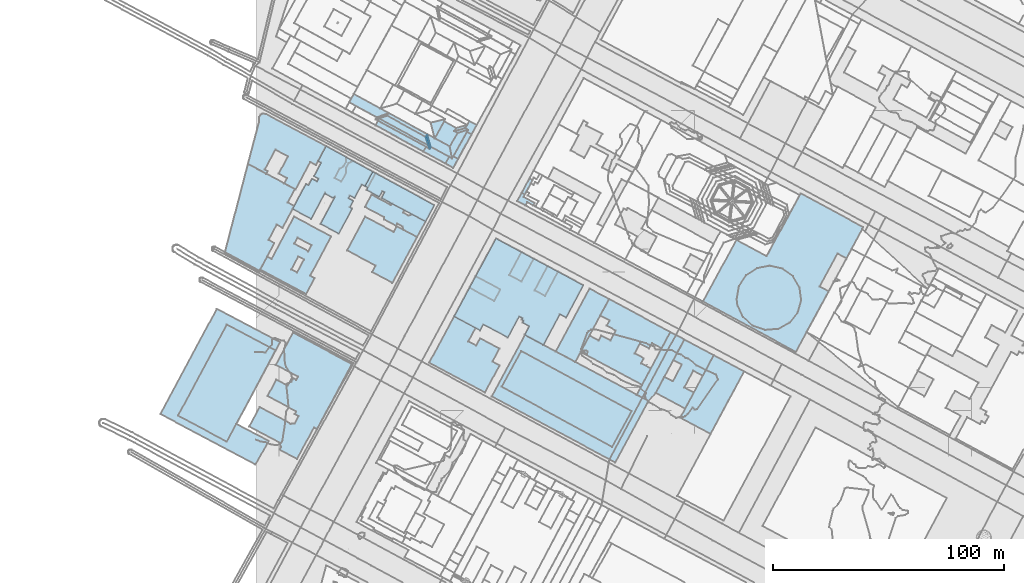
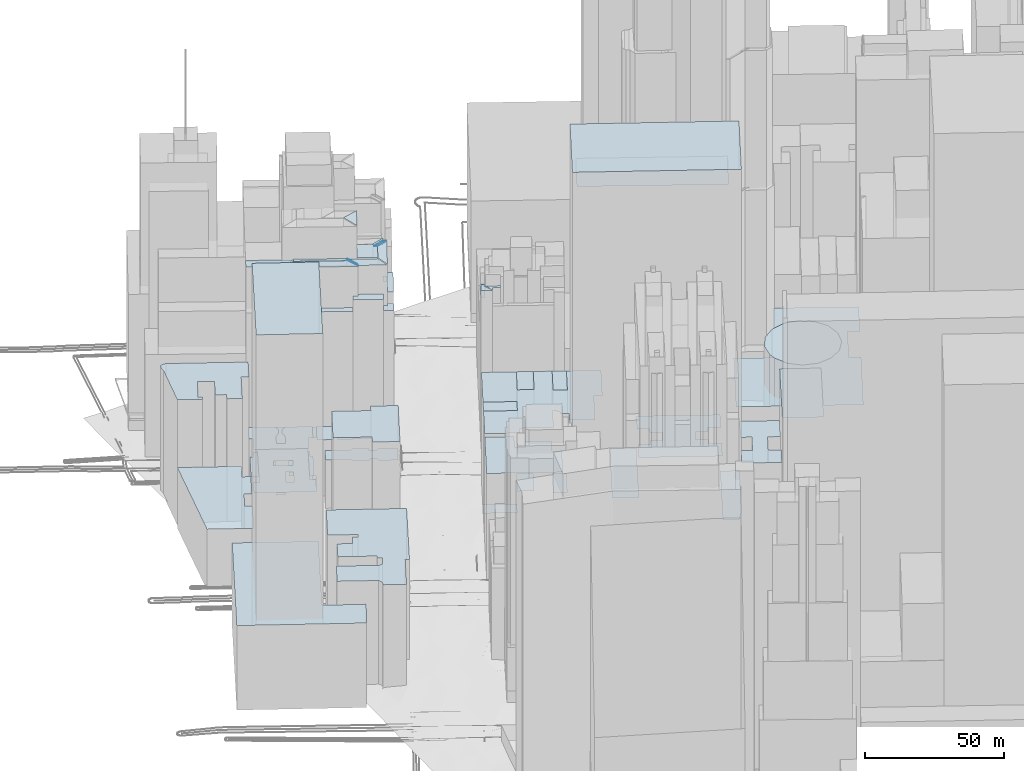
# Not in any storey, part 36 of 76: 45 roofs.
"""IFC2X3 model written with IfcOpenShell, lengths in metres."""

from ifc_helpers import new_model, si_unit, frame, origin_with_axes, place, context, subcontext, project, faceted_brep, element, save


model = new_model("IFC2X3")

# Units and contexts
model_context = context("Model", 3, precision=1e-05, world=origin_with_axes())
body_context = subcontext(model_context, "Body", "Model", "MODEL_VIEW")
ifc_project = project(units=[si_unit("AREAUNIT", "SQUARE_METRE"), si_unit("LENGTHUNIT", "METRE")], contexts=[model_context])

# Roofs
roof_1_placement = place(None, frame((183.8820757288, 196.3915098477, 20.8609767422), z_axis=(0.0, 0.0, 1.0), x_axis=(1.0, 0.0, 0.0)))
element("IfcRoof", 1, at=roof_1_placement, Name="Toiture 0", ShapeType="NOTDEFINED", context=body_context, shape_type="Brep", body=[
    faceted_brep([(14.5169569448, 27.0695500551, 49.0), (0.0, 0.0, 49.0), (13.0985430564, -7.030868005, 49.0), (27.6239079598, 20.0388061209, 49.0)], [[[0, 1, 2]], [[2, 3, 0]]]),
])
roof_2_placement = place(None, frame((102.2298570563, 205.6345629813, 20.5938253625), z_axis=(0.0, 0.0, 1.0), x_axis=(1.0, 0.0, 0.0)))
element("IfcRoof", 2, at=roof_2_placement, Name="Toiture 0", ShapeType="NOTDEFINED", context=body_context, shape_type="Brep", body=[
    faceted_brep([(14.353712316, 26.6122941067, 179.8000030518), (0.0, 0.0, 179.8000030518), (53.4972467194, -28.6328905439, 179.8000030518), (67.8508291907, -2.0204918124, 179.8000030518)], [[[0, 1, 2]], [[2, 3, 0]]]),
])
roof_3_placement = place(None, frame((106.4781571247, 209.8028425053, 21.3379729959), z_axis=(0.0, 0.0, 1.0), x_axis=(1.0, 0.0, 0.0)))
element("IfcRoof", 3, at=roof_3_placement, Name="Toiture 0", ShapeType="NOTDEFINED", context=body_context, shape_type="Brep", body=[
    faceted_brep([(8.5063843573, 15.4865312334, 168.8000030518), (0.0, 0.0, 168.8000030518), (47.8622501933, -26.0671157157, 168.8000030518), (56.3684390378, -10.5694282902, 168.8000030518)], [[[0, 1, 2]], [[2, 3, 0]]]),
])
roof_4_placement = place(None, frame((164.9927892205, 206.3193932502, 19.6062191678), z_axis=(0.0, 0.0, 1.0), x_axis=(1.0, 0.0, 0.0)))
element("IfcRoof", 4, at=roof_4_placement, Name="Toiture 0", ShapeType="NOTDEFINED", context=body_context, shape_type="Brep", body=[
    faceted_brep([(14.5577861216, 27.1921115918, 6.0), (0.0, 0.0, 6.0), (5.0878970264, -2.7053220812, 6.0), (8.2630231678, 0.8287960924, 6.0), (20.6479519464, 23.9544415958, 6.0)], [[[0, 1, 2]], [[2, 3, 4]], [[4, 0, 2]]]),
])
roof_5_placement = place(None, frame((173.2558123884, 207.1481893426, 18.8067512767), z_axis=(0.0, 0.0, 1.0), x_axis=(1.0, 0.0, 0.0)))
element("IfcRoof", 5, at=roof_5_placement, Name="Toiture 0", ShapeType="NOTDEFINED", context=body_context, shape_type="Brep", body=[
    faceted_brep([(3.742823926, 6.9824180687, 28.3999996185), (0.0, 0.0, 28.3999996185), (12.733126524, -6.8241916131, 28.3999996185), (16.475942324, 0.1582329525, 28.3999996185), (12.3816260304, 2.3532869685, 28.3999996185), (16.2731366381, 9.6149967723, 28.3999996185), (20.3758905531, 7.4200430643, 28.3999996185), (25.1432202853, 16.3128705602, 28.3999996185), (12.3849287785, 23.1256455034, 28.3999996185), (7.6512209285, 14.2443195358, 28.3999996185), (7.3952691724, 5.0375743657, 28.3999996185), (11.2869121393, 12.2881807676, 28.3999996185)], [[[0, 1, 2]], [[2, 3, 4]], [[5, 6, 7]], [[7, 8, 9]], [[10, 0, 2]], [[5, 7, 9]], [[11, 10, 2]], [[5, 9, 11]], [[11, 2, 4]], [[4, 5, 11]]]),
])
roof_6_placement = place(None, frame((140.736043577, 224.855812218, 18.8878227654), z_axis=(0.0, 0.0, 1.0), x_axis=(1.0, 0.0, 0.0)))
element("IfcRoof", 6, at=roof_6_placement, Name="Toiture 0", ShapeType="NOTDEFINED", context=body_context, shape_type="Brep", body=[
    faceted_brep([(3.8172594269, 7.11649328, 31.3999996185), (0.0, 0.0, 31.3999996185), (26.5536145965, -14.2464559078, 31.3999996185), (30.3624164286, -7.1300469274, 31.3999996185), (26.1831921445, -4.8915607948, 31.3999996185), (27.3481177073, -2.7130804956, 31.3999996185), (23.3727549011, -0.5832457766, 31.3999996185), (25.6615651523, 3.6733168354, 31.3999996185), (29.6369264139, 1.5434833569, 31.3999996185), (30.8679530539, 3.8448574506, 31.3999996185), (35.0471740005, 1.6063739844, 31.3999996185), (38.8145317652, 8.6556926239, 31.3999996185), (12.3027872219, 22.9358968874, 31.3999996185), (8.4690509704, 15.7859003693, 31.3999996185), (12.4614103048, 13.6451532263, 31.3999996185), (11.254926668, 11.4106810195, 31.3999996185), (15.2048295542, 9.2916463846, 31.3999996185), (12.9161442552, 5.023986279, 31.3999996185), (8.9662398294, 7.1430221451, 31.3999996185), (7.801181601, 4.9756455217, 31.3999996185)], [[[0, 1, 2]], [[2, 3, 4]], [[4, 5, 6]], [[7, 8, 9]], [[9, 10, 11]], [[11, 12, 13]], [[14, 15, 16]], [[17, 18, 19]], [[19, 0, 2]], [[2, 4, 6]], [[7, 9, 11]], [[11, 13, 14]], [[17, 19, 2]], [[7, 11, 14]], [[16, 17, 2]], [[6, 7, 14]], [[16, 2, 6]], [[6, 14, 16]]]),
])
roof_7_placement = place(None, frame((129.9536213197, 225.0858006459, 21.0283081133), z_axis=(0.0, 0.0, 1.0), x_axis=(1.0, 0.0, 0.0)))
element("IfcRoof", 7, at=roof_7_placement, Name="Toiture 0", ShapeType="NOTDEFINED", context=body_context, shape_type="Brep", body=[
    faceted_brep([(14.6163103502, 27.2482324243, 15.1999998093), (0.0, 0.0, 15.1999998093), (8.4687912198, -4.5312400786, 15.1999998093), (23.0852094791, 22.7059084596, 15.1999998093)], [[[0, 1, 2]], [[2, 3, 0]]]),
])
roof_8_placement = place(None, frame((85.8984085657, 240.2837612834, 20.6241127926), z_axis=(0.0, 0.0, 1.0), x_axis=(1.0, 0.0, 0.0)))
element("IfcRoof", 8, at=roof_8_placement, Name="Toiture 0", ShapeType="NOTDEFINED", context=body_context, shape_type="Brep", body=[
    faceted_brep([(18.1278687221, 33.8059517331, 50.0), (0.0, 0.0, 50.0), (11.2465195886, -6.0311397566, 50.0), (12.6512037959, -3.4168984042, 50.0), (23.2861681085, -9.1220554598, 50.0), (28.2024169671, 0.0388994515, 50.0), (29.7229034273, -0.776106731, 50.0), (29.3592670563, -1.4464661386, 50.0), (30.1152258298, -1.848467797, 50.0), (29.6773030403, -2.6640194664, 50.0), (32.5654494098, -4.2180905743, 50.0), (30.5658357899, -7.9383700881, 50.0), (38.6867515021, -12.3182352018, 50.0), (45.8336301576, 1.0208901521, 50.0), (48.5348020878, -0.4243246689, 50.0), (55.9958034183, 13.4846763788, 50.0)], [[[0, 1, 2]], [[3, 4, 5]], [[6, 7, 8]], [[8, 9, 10]], [[10, 11, 12]], [[13, 14, 15]], [[0, 2, 3]], [[6, 8, 10]], [[10, 12, 13]], [[13, 15, 0]], [[0, 3, 5]], [[6, 10, 13]], [[13, 0, 5]], [[5, 6, 13]]]),
])
roof_9_placement = place(None, frame((85.8984085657, 240.2837612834, 20.6241127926), z_axis=(0.0, 0.0, 1.0), x_axis=(1.0, 0.0, 0.0)))
element("IfcRoof", 9, at=roof_9_placement, Name="Toiture 0", ShapeType="NOTDEFINED", context=body_context, shape_type="Brep", body=[
    faceted_brep([(6.6595287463, 12.4230421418, 50.0), (0.0, 0.0, 50.0), (11.2465195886, -6.0311397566, 50.0), (12.6512037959, -3.4168984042, 50.0), (23.2861681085, -9.1220554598, 50.0), (28.2024169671, 0.0388994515, 50.0), (29.7229034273, -0.776106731, 50.0), (29.3592670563, -1.4464661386, 50.0), (30.1152258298, -1.848467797, 50.0), (29.6773030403, -2.6640194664, 50.0), (32.5654494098, -4.2180905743, 50.0), (30.5658357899, -7.9383700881, 50.0), (38.6867515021, -12.3182352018, 50.0), (45.8336301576, 1.0208901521, 50.0), (48.5348020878, -0.4243246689, 50.0), (55.9958034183, 13.4846763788, 50.0), (45.0379209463, 19.3747728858, 50.0), (39.3945655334, 8.8619853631, 50.0), (34.8585594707, 11.2961922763, 50.0), (40.5020482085, 21.7978755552, 50.0), (34.5220457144, 25.003566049, 50.0), (23.8498507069, 17.92958022, 50.0), (29.1875069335, 27.8725894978, 50.0), (18.1278687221, 33.8059517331, 50.0), (9.3283721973, 17.3945398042, 50.0), (20.0566635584, 11.6460536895, 50.0), (17.387953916, 6.6634513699, 50.0), (29.1928346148, 15.0606509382, 50.0)], [[[0, 1, 2]], [[3, 4, 5]], [[6, 7, 8]], [[8, 9, 10]], [[10, 11, 12]], [[13, 14, 15]], [[15, 16, 17]], [[18, 19, 20]], [[21, 22, 23]], [[23, 24, 25]], [[26, 0, 2]], [[6, 8, 10]], [[10, 12, 13]], [[13, 15, 17]], [[18, 20, 27]], [[21, 23, 25]], [[25, 26, 2]], [[6, 10, 13]], [[13, 17, 18]], [[18, 27, 21]], [[21, 25, 2]], [[5, 6, 13]], [[13, 18, 21]], [[21, 2, 3]], [[5, 13, 21]], [[21, 3, 5]]]),
])
roof_10_placement = place(None, frame((109.7482592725, 258.2133415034, 22.1609130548), z_axis=(0.0, 0.0, 1.0), x_axis=(1.0, 0.0, 0.0)))
element("IfcRoof", 10, at=roof_10_placement, Name="Toiture 0", ShapeType="NOTDEFINED", context=body_context, shape_type="Brep", body=[
    faceted_brep([(5.3376562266, 9.9430092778, 4.0), (0.0, 0.0, 4.0), (5.3429839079, -2.8689292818, 4.0), (10.6721950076, 7.073985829, 4.0)], [[[0, 1, 2]], [[2, 3, 0]]]),
])
roof_11_placement = place(None, frame((120.7569680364, 251.5799535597, 21.6785385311), z_axis=(0.0, 0.0, 1.0), x_axis=(1.0, 0.0, 0.0)))
element("IfcRoof", 11, at=roof_11_placement, Name="Toiture 0", ShapeType="NOTDEFINED", context=body_context, shape_type="Brep", body=[
    faceted_brep([(5.6434887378, 10.5016832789, 4.0), (0.0, 0.0, 4.0), (4.5360060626, -2.4342069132, 4.0), (10.1793614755, 8.0785806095, 4.0)], [[[0, 1, 2]], [[2, 3, 0]]]),
])
roof_12_placement = place(None, frame((113.2505831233, 290.2618220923, 23.4496714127), z_axis=(0.0, 0.0, 1.0), x_axis=(1.0, 0.0, 0.0)))
element("IfcRoof", 12, at=roof_12_placement, Name="Toiture 0", ShapeType="NOTDEFINED", context=body_context, shape_type="Brep", body=[
    faceted_brep([(1.9180329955, 3.4750820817, 70.0), (0.0, 0.0, 70.0), (3.5507210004, -1.912748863, 70.0), (4.3278559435, -0.5048368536, 70.0), (6.9103282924, -1.9070263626, 70.0), (7.4887654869, -0.8344899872, 70.0), (2.7316622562, 1.7414799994, 70.0), (3.2685432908, 2.7580220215, 70.0)], [[[0, 1, 2]], [[3, 4, 5]], [[6, 7, 0]], [[3, 5, 6]], [[6, 0, 2]], [[2, 3, 6]]]),
])
roof_13_placement = place(None, frame((115.1686161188, 293.7369041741, 23.6149483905), z_axis=(0.0, 0.0, 1.0), x_axis=(1.0, 0.0, 0.0)))
element("IfcRoof", 13, at=roof_13_placement, Name="Toiture 0", ShapeType="NOTDEFINED", context=body_context, shape_type="Brep", body=[
    faceted_brep([(3.4125721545, 6.3457242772, 64.0), (0.0, 0.0, 64.0), (1.3505102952, -0.7170600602, 64.0), (4.7632106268, 5.6175640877, 64.0)], [[[0, 1, 2]], [[2, 3, 0]]]),
])
roof_14_placement = place(None, frame((208.3375568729, 247.8905716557, 20.825107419), z_axis=(0.0, 0.0, 1.0), x_axis=(1.0, 0.0, 0.0)))
element("IfcRoof", 14, at=roof_14_placement, Name="Toiture 0", ShapeType="NOTDEFINED", context=body_context, shape_type="Brep", body=[
    faceted_brep([(0.973996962, 5.5291486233, 37.0), (0.0, 0.0, 37.0), (0.3701435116, -2.7934642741, 37.0), (2.7424292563, -7.8951187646, 37.0), (6.9390853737, -11.6321820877, 37.0), (12.2781734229, -13.435265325, 37.0), (17.8949044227, -12.9813571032, 37.0), (22.8786233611, -10.3587654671, 37.0), (26.4239639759, -5.9987460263, 37.0), (27.9565517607, -0.5963225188, 37.0), (27.2249428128, 4.9685003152, 37.0), (24.3493255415, 9.7978381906, 37.0), (19.7863353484, 13.0976424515, 37.0), (14.2932254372, 14.3549177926, 37.0), (8.7506217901, 13.3356587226, 37.0), (4.0595645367, 10.2279804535, 37.0)], [[[0, 1, 2]], [[2, 3, 4]], [[4, 5, 6]], [[6, 7, 8]], [[8, 9, 10]], [[10, 11, 12]], [[12, 13, 14]], [[14, 15, 0]], [[0, 2, 4]], [[4, 6, 8]], [[8, 10, 12]], [[12, 14, 0]], [[0, 4, 8]], [[8, 12, 0]]]),
])
roof_15_placement = place(None, frame((193.7309608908, 246.6882133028, 19.7595905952), z_axis=(0.0, 0.0, 1.0), x_axis=(1.0, 0.0, 0.0)))
element("IfcRoof", 15, at=roof_15_placement, Name="Toiture 0", ShapeType="NOTDEFINED", context=body_context, shape_type="Brep", body=[
    faceted_brep([(14.4699178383, 26.7470627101, 21.0), (0.0, 0.0, 21.0), (40.2234747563, -21.7700261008, 21.0), (54.4125243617, 4.4409408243, 21.0), (50.5303832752, 6.5385106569, 21.0), (58.2323186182, 20.7612951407, 21.0), (62.1144547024, 18.6637293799, 21.0), (69.4444224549, 32.2049607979, 21.0), (42.2947416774, 46.899331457, 21.0), (27.5521167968, 19.6605385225, 21.0)], [[[0, 1, 2]], [[2, 3, 4]], [[5, 6, 7]], [[7, 8, 9]], [[9, 0, 2]], [[5, 7, 9]], [[9, 2, 4]], [[4, 5, 9]]]),
])
roof_16_placement = place(None, frame((75.8576447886, 324.2223197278, 23.8818952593), z_axis=(0.0, 0.0, 1.0), x_axis=(1.0, 0.0, 0.0)))
element("IfcRoof", 16, at=roof_16_placement, Name="Toiture 0", ShapeType="NOTDEFINED", context=body_context, shape_type="Brep", body=[
    faceted_brep([(6.2713279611, 1.5050133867, 94.0), (0.0, 0.0, 94.0), (1.6742153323, -6.7862405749, 94.0)], [[[0, 1, 2]]]),
])
roof_17_placement = place(None, frame((51.8301050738, 323.0662829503, 23.5650277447), z_axis=(0.0, 0.0, 1.0), x_axis=(1.0, 0.0, 0.0)))
element("IfcRoof", 17, at=roof_17_placement, Name="Toiture 0", ShapeType="NOTDEFINED", context=body_context, shape_type="Brep", body=[
    faceted_brep([(1.0828589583, 1.9776688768, 62.0), (0.0, 0.0, 62.0), (20.7629560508, -11.3941082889, 62.0), (21.9038617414, -9.3269442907, 62.0)], [[[0, 1, 2]], [[2, 3, 0]]]),
])
roof_18_placement = place(None, frame((-13.4692579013, 267.507853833, 20.5235292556), z_axis=(0.0, 0.0, 1.0), x_axis=(1.0, 0.0, 0.0)))
element("IfcRoof", 18, at=roof_18_placement, Name="Toiture 0", ShapeType="NOTDEFINED", context=body_context, shape_type="Brep", body=[
    faceted_brep([(10.0850586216, 38.7750178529, 26.5), (0.0, 0.0, 26.5), (14.8729310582, -7.9321108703, 26.5), (21.5236253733, 4.535158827, 26.5), (19.0179048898, 5.871663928, 26.5), (22.5456521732, 12.4851249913, 26.5), (25.0429308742, 11.1485231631, 26.5), (30.1073251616, 20.644198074, 26.5), (27.3212769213, 22.1328790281, 26.5), (30.4109499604, 27.9418994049, 26.5)], [[[0, 1, 2]], [[2, 3, 4]], [[5, 6, 7]], [[8, 9, 0]], [[0, 2, 4]], [[5, 7, 8]], [[8, 0, 4]], [[4, 5, 8]]]),
])
roof_19_placement = place(None, frame((-3.3841992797, 306.2828716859, 21.8195391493), z_axis=(0.0, 0.0, 1.0), x_axis=(1.0, 0.0, 0.0)))
element("IfcRoof", 19, at=roof_19_placement, Name="Toiture 0", ShapeType="NOTDEFINED", context=body_context, shape_type="Brep", body=[
    faceted_brep([(0.0, 0.0, 54.9000015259), (7.9587232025, -4.2375453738, 54.9000015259), (8.5865292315, -3.0534231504, 54.9000015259), (17.3086069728, 3.3094443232, 54.9000015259), (13.3099607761, -4.1865612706, 54.9000015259), (16.8944091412, -6.0989674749, 54.9000015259), (15.6882811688, -8.366718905, 54.9000015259), (20.6318009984, -11.0072048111, 54.9000015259), (26.9684045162, 0.8791195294, 54.9000015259), (29.4571079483, -0.4464745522, 54.9000015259), (33.8274296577, 7.7532955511, 54.9000015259), (7.7846017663, 21.6841879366, 54.9000015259), (6.347319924, 21.8784555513, 54.9000015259), (5.3911895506, 21.3455570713, 54.9000015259), (4.8705322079, 20.3847231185, 54.9000015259), (7.3125093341, -2.3798647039, 54.9000015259), (4.8038334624, 18.1301925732, 54.9000015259), (11.8893541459, 6.2108665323, 54.9000015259)], [[[0, 1, 2]], [[3, 4, 5]], [[5, 6, 7]], [[8, 9, 10]], [[10, 11, 12]], [[12, 13, 14]], [[0, 2, 15]], [[3, 5, 7]], [[8, 10, 12]], [[12, 14, 16]], [[16, 0, 15]], [[3, 7, 8]], [[8, 12, 16]], [[16, 15, 17]], [[17, 3, 8]], [[8, 16, 17]]]),
])
roof_20_placement = place(None, frame((47.3240526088, 296.7460494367, 22.6341458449), z_axis=(0.0, 0.0, 1.0), x_axis=(1.0, 0.0, 0.0)))
element("IfcRoof", 20, at=roof_20_placement, Name="Toiture 0", ShapeType="NOTDEFINED", context=body_context, shape_type="Brep", body=[
    faceted_brep([(3.3375678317, 6.267105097, 4.0), (0.0, 0.0, 4.0), (1.2145569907, -0.6409345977, 4.0), (4.5862716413, 5.5932606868, 4.0)], [[[0, 1, 2]], [[2, 3, 0]]]),
])
roof_21_placement = place(None, frame((15.9441565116, 286.8450369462, 20.647913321), z_axis=(0.0, 0.0, 1.0), x_axis=(1.0, 0.0, 0.0)))
element("IfcRoof", 21, at=roof_21_placement, Name="Toiture 0", ShapeType="NOTDEFINED", context=body_context, shape_type="Brep", body=[
    faceted_brep([(5.7830971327, 10.847390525, 27.3999996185), (0.0, 0.0, 27.3999996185), (8.0352328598, -4.2810464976, 27.3999996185), (14.0662474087, 7.0244198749, 27.3999996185), (14.5213100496, 6.363565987, 27.3999996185), (17.3582596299, 4.8532774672, 27.3999996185), (18.4068488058, 5.4205597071, 27.3999996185), (12.0868715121, -6.4433762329, 27.3999996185), (20.0203200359, -10.6811822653, 27.3999996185), (25.8033972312, 0.1662240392, 27.3999996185), (24.7841247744, 0.7095061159, 27.3999996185), (26.2793412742, 3.5246280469, 27.3999996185), (24.1813290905, 4.6438087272, 27.3999996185), (24.8257532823, 5.8503314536, 27.3999996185), (26.8302782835, 4.7855771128, 27.3999996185), (29.9614850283, 10.6506035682, 27.3999996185), (31.3798960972, 9.9010124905, 27.3999996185), (34.717463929, 16.1681175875, 27.3999996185), (14.4990738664, 27.1911302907, 27.3999996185), (11.0539615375, 20.7340482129, 27.3999996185), (12.3874511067, 20.0278770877, 27.3999996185), (9.2563637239, 14.1517573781, 27.3999996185), (11.2354346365, 13.0978057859, 27.3999996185), (10.5910089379, 11.8912842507, 27.3999996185), (8.3996436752, 13.0537949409, 27.3999996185), (6.9042937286, 10.2497774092, 27.3999996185)], [[[0, 1, 2]], [[3, 4, 5]], [[6, 7, 8]], [[8, 9, 10]], [[10, 11, 12]], [[13, 14, 15]], [[15, 16, 17]], [[17, 18, 19]], [[20, 21, 22]], [[23, 24, 25]], [[25, 0, 2]], [[3, 5, 6]], [[6, 8, 10]], [[13, 15, 17]], [[17, 19, 20]], [[23, 25, 2]], [[6, 10, 12]], [[13, 17, 20]], [[22, 23, 2]], [[3, 6, 12]], [[12, 13, 20]], [[22, 2, 3]], [[3, 12, 20]], [[20, 22, 3]]]),
])
roof_22_placement = place(None, frame((15.9441565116, 286.8450369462, 20.647913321), z_axis=(0.0, 0.0, 1.0), x_axis=(1.0, 0.0, 0.0)))
element("IfcRoof", 22, at=roof_22_placement, Name="Toiture 0", ShapeType="NOTDEFINED", context=body_context, shape_type="Brep", body=[
    faceted_brep([(5.7830971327, 10.847390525, 27.3999996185), (0.0, 0.0, 27.3999996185), (8.0352328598, -4.2810464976, 27.3999996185), (14.0662474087, 7.0244198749, 27.3999996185), (14.5213100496, 6.363565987, 27.3999996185), (17.3582596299, 4.8532774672, 27.3999996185), (18.4068488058, 5.4205597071, 27.3999996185), (12.0868715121, -6.4433762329, 27.3999996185), (20.0203200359, -10.6811822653, 27.3999996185), (25.8033972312, 0.1662240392, 27.3999996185), (24.7841247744, 0.7095061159, 27.3999996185), (26.2793412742, 3.5246280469, 27.3999996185), (24.1813290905, 4.6438087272, 27.3999996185), (24.8257532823, 5.8503314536, 27.3999996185), (26.8302782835, 4.7855771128, 27.3999996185), (29.9614850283, 10.6506035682, 27.3999996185), (31.3798960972, 9.9010124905, 27.3999996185), (34.717463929, 16.1681175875, 27.3999996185), (26.2477906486, 20.7882623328, 27.3999996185), (24.2412699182, 19.8434861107, 27.3999996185), (23.2746353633, 18.0337020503, 27.3999996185), (23.2917057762, 15.8356544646, 27.3999996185), (20.3782815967, 17.3894620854, 27.3999996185), (22.2214757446, 18.5876933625, 27.3999996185), (23.1881104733, 20.3974772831, 27.3999996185), (23.1045489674, 22.5059351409, 27.3999996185), (14.4990738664, 27.1911302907, 27.3999996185), (11.0539615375, 20.7340482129, 27.3999996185), (12.3874511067, 20.0278770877, 27.3999996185), (9.2563637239, 14.1517573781, 27.3999996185), (11.2354346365, 13.0978057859, 27.3999996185), (10.5910089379, 11.8912842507, 27.3999996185), (8.3996436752, 13.0537949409, 27.3999996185), (6.9042937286, 10.2497774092, 27.3999996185), (18.213707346, 13.3342229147, 27.3999996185), (21.13557285, 11.7805123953, 27.3999996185)], [[[0, 1, 2]], [[3, 4, 5]], [[6, 7, 8]], [[8, 9, 10]], [[10, 11, 12]], [[13, 14, 15]], [[15, 16, 17]], [[17, 18, 19]], [[19, 20, 21]], [[22, 23, 24]], [[24, 25, 26]], [[26, 27, 28]], [[28, 29, 30]], [[31, 32, 33]], [[33, 0, 2]], [[3, 5, 6]], [[6, 8, 10]], [[13, 15, 17]], [[17, 19, 21]], [[22, 24, 26]], [[26, 28, 30]], [[31, 33, 2]], [[6, 10, 12]], [[13, 17, 21]], [[34, 22, 26]], [[30, 31, 2]], [[3, 6, 12]], [[12, 13, 21]], [[34, 26, 30]], [[30, 2, 3]], [[12, 21, 35]], [[35, 34, 30]], [[30, 3, 12]], [[12, 35, 30]]]),
])
roof_23_placement = place(None, frame((34.1578638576, 300.1792598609, 21.4353953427), z_axis=(0.0, 0.0, 1.0), x_axis=(1.0, 0.0, 0.0)))
element("IfcRoof", 23, at=roof_23_placement, Name="Toiture 0", ShapeType="NOTDEFINED", context=body_context, shape_type="Brep", body=[
    faceted_brep([(2.1645742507, 4.0552391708, 4.0), (0.0, 0.0, 4.0), (2.921865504, -1.5537105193, 4.0), (5.0779984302, 2.5014315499, 4.0), (5.0609280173, 4.6994791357, 4.0), (6.0275625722, 6.509263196, 4.0), (8.0340833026, 7.4540394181, 4.0), (4.8908416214, 9.1717122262, 4.0), (4.0077683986, 5.2534704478, 4.0), (4.9744031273, 7.0632543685, 4.0)], [[[0, 1, 2]], [[2, 3, 4]], [[5, 6, 7]], [[8, 0, 2]], [[5, 7, 9]], [[9, 8, 2]], [[4, 5, 9]], [[9, 2, 4]]]),
])
roof_24_placement = place(None, frame((73.5998116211, 318.0232504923, 23.6934942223), z_axis=(0.0, 0.0, 1.0), x_axis=(1.0, 0.0, 0.0)))
element("IfcRoof", 24, at=roof_24_placement, Name="Toiture 0", ShapeType="NOTDEFINED", context=body_context, shape_type="Brep", body=[
    faceted_brep([(0.6783061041, 1.1958170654, 80.0), (0.0, 0.0, 80.0), (1.7651185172, -5.1642565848, 80.0), (2.2527799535, -4.2704138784, 80.0)], [[[0, 1, 2]], [[2, 3, 0]]]),
])
roof_25_placement = place(None, frame((72.5930611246, 311.6721746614, 23.6541015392), z_axis=(0.0, 0.0, 1.0), x_axis=(1.0, 0.0, 0.0)))
element("IfcRoof", 25, at=roof_25_placement, Name="Toiture 0", ShapeType="NOTDEFINED", context=body_context, shape_type="Brep", body=[
    faceted_brep([(1.1409056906, 2.0671639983, 67.0), (0.0, 0.0, 67.0), (9.5908889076, -5.2177144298, 67.0), (11.2191958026, -2.2345041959, 67.0), (3.2595304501, 2.0806619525, 67.0), (2.7718690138, 1.186819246, 67.0)], [[[0, 1, 2]], [[2, 3, 4]], [[5, 0, 2]], [[2, 4, 5]]]),
])
roof_26_placement = place(None, frame((82.1839500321, 306.4544602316, 23.6541015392), z_axis=(0.0, 0.0, 1.0), x_axis=(1.0, 0.0, 0.0)))
element("IfcRoof", 26, at=roof_26_placement, Name="Toiture 0", ShapeType="NOTDEFINED", context=body_context, shape_type="Brep", body=[
    faceted_brep([(1.628306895, 2.983210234, 62.0), (0.0, 0.0, 62.0), (3.3638596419, -1.8150130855, 62.0), (5.3873702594, 2.0276609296, 62.0), (3.390767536, 3.1369042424, 62.0), (2.8614214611, 2.1981677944, 62.0)], [[[0, 1, 2]], [[2, 3, 4]], [[5, 0, 2]], [[2, 4, 5]]]),
])
roof_27_placement = place(None, frame((84.0905066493, 313.8262916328, 23.7335275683), z_axis=(0.0, 0.0, 1.0), x_axis=(1.0, 0.0, 0.0)))
element("IfcRoof", 27, at=roof_27_placement, Name="Toiture 0", ShapeType="NOTDEFINED", context=body_context, shape_type="Brep", body=[
    faceted_brep([(3.3073776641, 5.9559091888, 80.0), (0.0, 0.0, 80.0), (0.9548648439, -5.1736636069, 80.0), (7.9345415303, 7.2975078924, 80.0)], [[[0, 1, 2]], [[2, 3, 0]]]),
])
roof_28_placement = place(None, frame((85.5747175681, 309.591364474, 23.7388524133), z_axis=(0.0, 0.0, 1.0), x_axis=(1.0, 0.0, 0.0)))
element("IfcRoof", 28, at=roof_28_placement, Name="Toiture 0", ShapeType="NOTDEFINED", context=body_context, shape_type="Brep", body=[
    faceted_brep([(5.9126749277, 10.5824993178, 67.0), (0.0, 0.0, 67.0), (1.9966027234, -1.1092433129, 67.0), (7.8583766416, 9.4948709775, 67.0)], [[[0, 1, 2]], [[2, 3, 0]]]),
])
roof_29_placement = place(None, frame((47.2941529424, 287.6862653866, 22.3142509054), z_axis=(0.0, 0.0, 1.0), x_axis=(1.0, 0.0, 0.0)))
element("IfcRoof", 29, at=roof_29_placement, Name="Toiture 0", ShapeType="NOTDEFINED", context=body_context, shape_type="Brep", body=[
    faceted_brep([(2.8591197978, 5.3067574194, 21.5), (0.0, 0.0, 21.5), (8.2307944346, -4.4008675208, 21.5), (8.2421345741, -5.3777339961, 21.5), (13.4574445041, -8.1593656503, 21.5), (16.3907258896, -8.5138902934, 21.5), (16.6767950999, -9.8872482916, 21.5), (22.5887243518, -13.0493648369, 21.5), (26.2412137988, -6.2789916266, 21.5), (20.3292881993, -3.1168780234, 21.5), (16.5150002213, -2.4950270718, 21.5), (17.1100684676, -1.400097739, 21.5), (11.8946328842, 1.3926320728, 21.5), (11.0899102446, 0.905893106, 21.5), (13.9699153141, -7.2208270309, 21.5), (18.9358097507, -3.7880894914, 21.5)], [[[0, 1, 2]], [[2, 3, 4]], [[5, 6, 7]], [[7, 8, 9]], [[10, 11, 12]], [[13, 0, 2]], [[2, 4, 14]], [[5, 7, 9]], [[10, 12, 13]], [[13, 2, 14]], [[14, 5, 9]], [[10, 13, 14]], [[14, 9, 15]], [[15, 10, 14]]]),
])
roof_30_placement = place(None, frame((47.9849679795, 295.0772811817, 22.6386360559), z_axis=(0.0, 0.0, 1.0), x_axis=(1.0, 0.0, 0.0)))
element("IfcRoof", 30, at=roof_30_placement, Name="Toiture 0", ShapeType="NOTDEFINED", context=body_context, shape_type="Brep", body=[
    faceted_brep([(3.9253562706, 7.2620289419, 25.2999992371), (0.0, 0.0, 25.2999992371), (5.4873189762, -2.9450128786, 25.2999992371), (7.8112848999, -0.9862431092, 25.2999992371), (6.4725730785, -3.4664836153, 25.2999992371), (25.5503987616, -13.6700074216, 25.2999992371), (29.3597658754, -6.5980497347, 25.2999992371), (6.8259021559, -0.4536717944, 25.2999992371)], [[[0, 1, 2]], [[3, 4, 5]], [[5, 6, 0]], [[0, 2, 7]], [[3, 5, 0]], [[0, 7, 3]]]),
])
roof_31_placement = place(None, frame((47.3240526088, 296.7460494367, 22.6341458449), z_axis=(0.0, 0.0, 1.0), x_axis=(1.0, 0.0, 0.0)))
element("IfcRoof", 31, at=roof_31_placement, Name="Toiture 0", ShapeType="NOTDEFINED", context=body_context, shape_type="Brep", body=[
    faceted_brep([(3.3375678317, 6.267105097, 25.2999992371), (0.0, 0.0, 25.2999992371), (1.2145569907, -0.6409345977, 25.2999992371), (0.6609153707, -1.668768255, 25.2999992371), (6.1482343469, -4.6137811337, 25.2999992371), (8.4722002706, -2.6550113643, 25.2999992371), (7.1334884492, -5.1352518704, 25.2999992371), (26.2113141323, -15.3387756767, 25.2999992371), (30.0206812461, -8.2668179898, 25.2999992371), (7.4868175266, -2.1224400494, 25.2999992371)], [[[0, 1, 2]], [[2, 3, 4]], [[5, 6, 7]], [[7, 8, 0]], [[0, 2, 4]], [[5, 7, 0]], [[0, 4, 9]], [[9, 5, 0]]]),
])
roof_32_placement = place(None, frame((39.5439098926, 268.8668109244, 21.829392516), z_axis=(0.0, 0.0, 1.0), x_axis=(1.0, 0.0, 0.0)))
element("IfcRoof", 32, at=roof_32_placement, Name="Toiture 0", ShapeType="NOTDEFINED", context=body_context, shape_type="Brep", body=[
    faceted_brep([(7.8585467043, 14.5796516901, 45.9000015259), (0.0, 0.0, 45.9000015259), (12.3759530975, -6.6176192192, 45.9000015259), (10.8802187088, -9.3883399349, 45.9000015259), (19.6376943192, -14.0717489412, 45.9000015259), (30.3389674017, 5.7700896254, 45.9000015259), (21.5815076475, 10.4534858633, 45.9000015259), (20.2344833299, 7.9620457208, 45.9000015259)], [[[0, 1, 2]], [[2, 3, 4]], [[4, 5, 6]], [[7, 0, 2]], [[2, 4, 6]], [[6, 7, 2]]]),
])
roof_33_placement = place(None, frame((92.5579373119, 252.7068034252, 21.8391315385), z_axis=(0.0, 0.0, 1.0), x_axis=(1.0, 0.0, 0.0)))
element("IfcRoof", 33, at=roof_33_placement, Name="Toiture 0", ShapeType="NOTDEFINED", context=body_context, shape_type="Brep", body=[
    faceted_brep([(2.6688434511, 4.9714976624, 4.0), (0.0, 0.0, 4.0), (10.7284251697, -5.759590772, 4.0), (13.3971348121, -0.7769884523, 4.0)], [[[0, 1, 2]], [[2, 3, 0]]]),
])
roof_34_placement = place(None, frame((75.1238683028, 220.2079028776, 20.5185789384), z_axis=(0.0, 0.0, 1.0), x_axis=(1.0, 0.0, 0.0)))
element("IfcRoof", 34, at=roof_34_placement, Name="Toiture 0", ShapeType="NOTDEFINED", context=body_context, shape_type="Brep", body=[
    faceted_brep([(10.7745402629, 20.0758584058, 48.5999984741), (0.0, 0.0, 48.5999984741), (24.1325284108, -12.9425374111, 48.5999984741), (30.4615452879, -1.1339469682, 48.5999984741), (27.4290071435, 0.4961679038, 48.5999984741), (30.411754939, 6.0597342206, 48.5999984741), (22.0193408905, 10.5585915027, 48.5999984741), (16.9270008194, 9.2893047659, 48.5999984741), (20.0504016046, 15.09874989, 48.5999984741), (20.3502373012, 7.4527804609, 48.5999984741)], [[[0, 1, 2]], [[2, 3, 4]], [[4, 5, 6]], [[7, 8, 0]], [[2, 4, 6]], [[7, 0, 2]], [[2, 6, 9]], [[9, 7, 2]]]),
])
roof_35_placement = place(None, frame((1.9323894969, 260.5699769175, 20.5582452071), z_axis=(0.0, 0.0, 1.0), x_axis=(1.0, 0.0, 0.0)))
element("IfcRoof", 35, at=roof_35_placement, Name="Toiture 0", ShapeType="NOTDEFINED", context=body_context, shape_type="Brep", body=[
    faceted_brep([(20.8513279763, 7.9135878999, 41.2000007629), (14.7016706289, 11.1951078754, 41.2000007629), (4.9268330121, 4.6201840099, 41.2000007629), (3.015664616, 5.6416221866, 41.2000007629), (0.0, 0.0, 41.2000007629), (13.4801606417, 0.0675826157, 41.2000007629), (16.4710095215, 5.6645136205, 41.2000007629), (15.9519972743, -1.2582102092, 41.2000007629), (19.884421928, -10.6050822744, 41.2000007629), (23.5608715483, -3.7123317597, 41.2000007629), (14.6755029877, 22.9076776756, 41.2000007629), (16.1062463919, 13.820434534, 41.2000007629), (21.6242486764, -2.6800914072, 41.2000007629), (30.7036559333, 14.3562056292, 41.2000007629), (18.9427160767, 4.3498225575, 41.2000007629), (22.2473331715, 10.5499185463, 41.2000007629)], [[[0, 1, 2]], [[2, 3, 4]], [[4, 5, 6]], [[7, 5, 4]], [[4, 8, 9]], [[10, 2, 1]], [[0, 2, 4]], [[7, 4, 9]], [[10, 1, 11]], [[0, 4, 6]], [[7, 9, 12]], [[13, 10, 11]], [[0, 6, 14]], [[14, 7, 12]], [[13, 11, 15]], [[0, 14, 12]], [[12, 13, 15]], [[15, 0, 12]]]),
])
roof_36_placement = place(None, frame((-2.7913984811, 192.6027250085, 19.7081583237), z_axis=(0.0, 0.0, 1.0), x_axis=(1.0, 0.0, 0.0)))
element("IfcRoof", 36, at=roof_36_placement, Name="Toiture 0", ShapeType="NOTDEFINED", context=body_context, shape_type="Brep", body=[
    faceted_brep([(4.4864005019, 8.3898337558, 46.2000007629), (0.0, 0.0, 46.2000007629), (13.0981058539, -7.0089939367, 46.2000007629), (13.7530284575, -8.8887774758, 46.2000007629), (13.1169008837, -10.0840985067, 46.2000007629), (20.6597368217, -14.1155150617, 46.2000007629), (27.9882930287, -0.4080177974, 46.2000007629), (29.3389411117, -1.1361950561, 46.2000007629), (44.4009101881, 27.0273767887, 46.2000007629), (18.926971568, 40.6428730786, 46.2000007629), (11.4828536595, 26.7119974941, 46.2000007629), (20.3713252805, 20.1981878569, 46.2000007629), (18.5196108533, 21.1870066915, 46.2000007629), (16.6440978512, 17.6791392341, 46.2000007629), (11.7089640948, 20.3197258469, 46.2000007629), (7.8920809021, 13.1589018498, 46.2000007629), (20.361463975, 6.4978988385, 46.2000007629), (19.7335216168, 5.3248766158, 46.2000007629), (21.330483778, 4.466328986, 46.2000007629), (17.9922095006, 1.1635335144, 46.2000007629), (21.1066720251, 21.5722969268, 46.2000007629), (19.6699087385, 1.3495336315, 46.2000007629)], [[[0, 1, 2]], [[3, 4, 5]], [[6, 7, 8]], [[8, 9, 10]], [[11, 12, 13]], [[13, 14, 15]], [[16, 17, 18]], [[19, 0, 2]], [[2, 3, 5]], [[8, 10, 20]], [[13, 15, 16]], [[21, 19, 2]], [[2, 5, 6]], [[6, 8, 20]], [[11, 13, 16]], [[21, 2, 6]], [[6, 20, 11]], [[11, 16, 18]], [[18, 21, 6]], [[6, 11, 18]]]),
])
roof_37_placement = place(None, frame((-33.682086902, 197.2515555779, 19.8467253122), z_axis=(0.0, 0.0, 1.0), x_axis=(1.0, 0.0, 0.0)))
element("IfcRoof", 37, at=roof_37_placement, Name="Toiture 0", ShapeType="NOTDEFINED", context=body_context, shape_type="Brep", body=[
    faceted_brep([(21.1603180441, 39.5140614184, 162.0), (0.0, 0.0, 162.0), (21.1496172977, -11.2344352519, 162.0), (42.3099874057, 28.2685864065, 162.0)], [[[0, 1, 2]], [[2, 3, 0]]]),
])
roof_38_placement = place(None, frame((-41.2792322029, 197.9628221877, 19.7236717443), z_axis=(0.0, 0.0, 1.0), x_axis=(1.0, 0.0, 0.0)))
element("IfcRoof", 38, at=roof_38_placement, Name="Toiture 0", ShapeType="NOTDEFINED", context=body_context, shape_type="Brep", body=[
    faceted_brep([(0.0, 0.0, 37.0), (41.1697471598, -21.8824360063, 37.0), (46.9005745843, -11.6129862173, 37.0), (32.8697860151, -4.2484289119, 37.0), (51.740056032, 31.0979986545, 37.0), (24.432417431, 45.6138174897, 37.0)], [[[0, 1, 2]], [[3, 4, 5]], [[0, 2, 3]], [[3, 5, 0]]]),
])
roof_39_placement = place(None, frame((40.4372493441, 332.9926795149, 23.2973875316), z_axis=(0.0, 0.0, 1.0), x_axis=(1.0, 0.0, 0.0)))
element("IfcRoof", 39, at=roof_39_placement, Name="Toiture 0", ShapeType="NOTDEFINED", context=body_context, shape_type="Brep", body=[
    faceted_brep([(2.0171467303, 3.6649515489, 80.0), (0.0, 0.0, 80.0), (43.3750075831, -23.5550090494, 80.0), (44.6081221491, -24.340051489, 80.0), (43.6532573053, -19.1663878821, 80.0)], [[[0, 1, 2]], [[2, 3, 4]], [[4, 0, 2]]]),
])
roof_40_placement = place(None, frame((90.7756990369, 321.8531409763, 24.126993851), z_axis=(0.0, 0.0, 1.0), x_axis=(1.0, 0.0, 0.0)))
element("IfcRoof", 40, at=roof_40_placement, Name="Toiture 0", ShapeType="NOTDEFINED", context=body_context, shape_type="Brep", body=[
    faceted_brep([(1.7368622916, 3.0843934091, 62.0), (0.0, 0.0, 62.0), (1.2493491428, -0.7293414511, 62.0), (0.711693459, -1.6792771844, 62.0), (2.6573951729, -2.7669055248, 62.0), (4.9315253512, 1.3007267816, 62.0)], [[[0, 1, 2]], [[2, 3, 4]], [[4, 5, 0]], [[0, 2, 4]]]),
])
roof_41_placement = place(None, frame((86.0131052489, 320.5432770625, 24.0792113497), z_axis=(0.0, 0.0, 1.0), x_axis=(1.0, 0.0, 0.0)))
element("IfcRoof", 41, at=roof_41_placement, Name="Toiture 0", ShapeType="NOTDEFINED", context=body_context, shape_type="Brep", body=[
    faceted_brep([(0.7607723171, 1.3633097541, 80.0), (0.0, 0.0, 80.0), (4.762593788, 1.3098639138, 80.0), (5.5154405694, 2.6286731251, 80.0)], [[[0, 1, 2]], [[2, 3, 0]]]),
])
roof_42_placement = place(None, frame((86.0131052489, 320.5432770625, 24.0792113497), z_axis=(0.0, 0.0, 1.0), x_axis=(1.0, 0.0, 0.0)))
element("IfcRoof", 42, at=roof_42_placement, Name="Toiture 0", ShapeType="NOTDEFINED", context=body_context, shape_type="Brep", body=[
    faceted_brep([(4.762593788, 1.3098639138, 80.0), (0.0, 0.0, 80.0), (1.3847790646, -0.7610762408, 80.0), (6.0119429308, 0.5805224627, 80.0)], [[[0, 1, 2]], [[2, 3, 0]]]),
])
roof_43_placement = place(None, frame((77.5318601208, 317.4360791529, 23.8332747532), z_axis=(0.0, 0.0, 1.0), x_axis=(1.0, 0.0, 0.0)))
element("IfcRoof", 43, at=roof_43_placement, Name="Toiture 0", ShapeType="NOTDEFINED", context=body_context, shape_type="Brep", body=[
    faceted_brep([(4.059713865, 7.3191174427, 80.0), (0.0, 0.0, 80.0), (6.5586465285, -3.60978752, 80.0), (9.8660241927, 2.3461216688, 80.0), (8.4812451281, 3.1071979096, 80.0), (9.2420174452, 4.4705076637, 80.0)], [[[0, 1, 2]], [[2, 3, 4]], [[4, 5, 0]], [[0, 2, 4]]]),
])
roof_44_placement = place(None, frame((56.8465504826, 327.2323505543, 23.571723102), z_axis=(0.0, 0.0, 1.0), x_axis=(1.0, 0.0, 0.0)))
element("IfcRoof", 44, at=roof_44_placement, Name="Toiture 0", ShapeType="NOTDEFINED", context=body_context, shape_type="Brep", body=[
    faceted_brep([(0.6872635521, 1.151510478, 80.0), (0.0, 0.0, 80.0), (16.7532611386, -9.209100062, 80.0), (17.4315672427, -8.0132829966, 80.0)], [[[0, 1, 2]], [[2, 3, 0]]]),
])
roof_45_placement = place(None, frame((51.9190164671, 325.5875262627, 23.5550313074), z_axis=(0.0, 0.0, 1.0), x_axis=(1.0, 0.0, 0.0)))
element("IfcRoof", 45, at=roof_45_placement, Name="Toiture 0", ShapeType="NOTDEFINED", context=body_context, shape_type="Brep", body=[
    faceted_brep([(4.9275340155, 1.6448242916, 80.0), (0.0, 0.0, 80.0), (21.8149503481, -11.8481876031, 80.0), (23.4459136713, -12.7285323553, 80.0), (21.6807951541, -7.5642757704, 80.0)], [[[0, 1, 2]], [[2, 3, 4]], [[4, 0, 2]]]),
])

save(model, "model.ifc")
